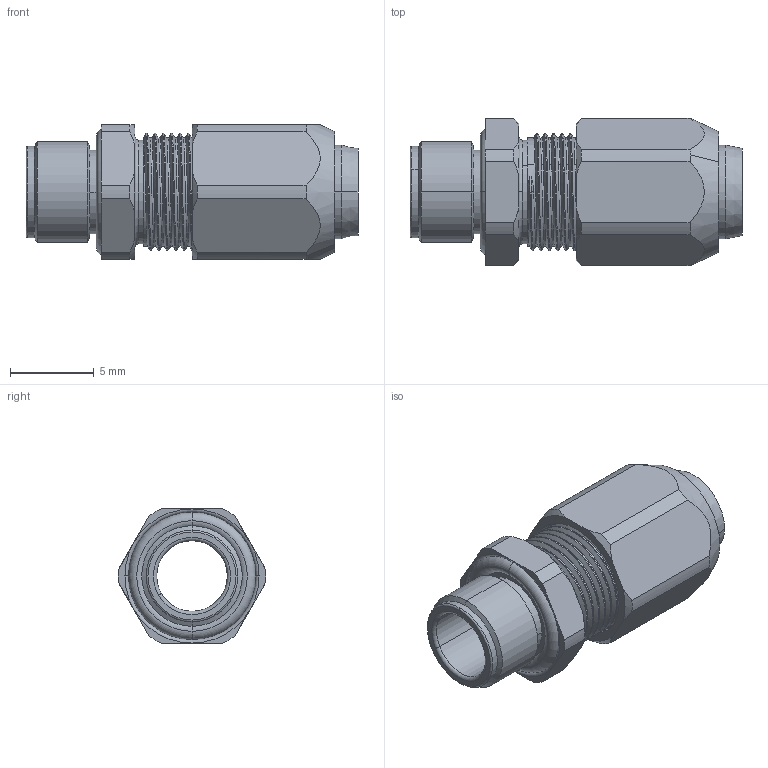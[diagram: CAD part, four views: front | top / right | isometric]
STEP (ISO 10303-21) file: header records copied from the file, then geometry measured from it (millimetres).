
FILE_DESCRIPTION(('Creo Elements/Direct Modeling STEP Export'),'2;1');
FILE_NAME('OA-WS06M-25／40.stp','2012-09-07T14:26:14',(''),(''),'Creo Elements/Direct Modeling STEP processor for AP214 (Solid Model)','Creo Elements/Direct Modeling 18.0B 02-Dec-2011 (C) Parametric Technology GmbH','');
FILE_SCHEMA(('AUTOMOTIVE_DESIGN { 1 0 10303 214 1 1 1 1 }'));
Length unit declared in the file: millimetre
Products named in the file (2): OA-WS06M-25／40
Assembly tree (1 placements, depth 2):
  OA-WS06M-25／40
    OA-WS06M-25／40
Bounding box: 19.8 x 8.8 x 8 mm (x, y, z)
Volume: 551.7 mm3; surface area: 982.3 mm2
Topology: 1 solids, 1 shells, 159 faces, 419 edges, 277 vertices
Faces by surface type: cylinder 71, plane 32, torus 30, cone 20, revolution 3, bspline 3
Entity records: 8045 total; most frequent: CARTESIAN_POINT 4648, ORIENTED_EDGE 838, DIRECTION 572, EDGE_CURVE 419, VERTEX_POINT 277, AXIS2_PLACEMENT_3D 242, EDGE_LOOP 176, FACE_OUTER_BOUND 159
